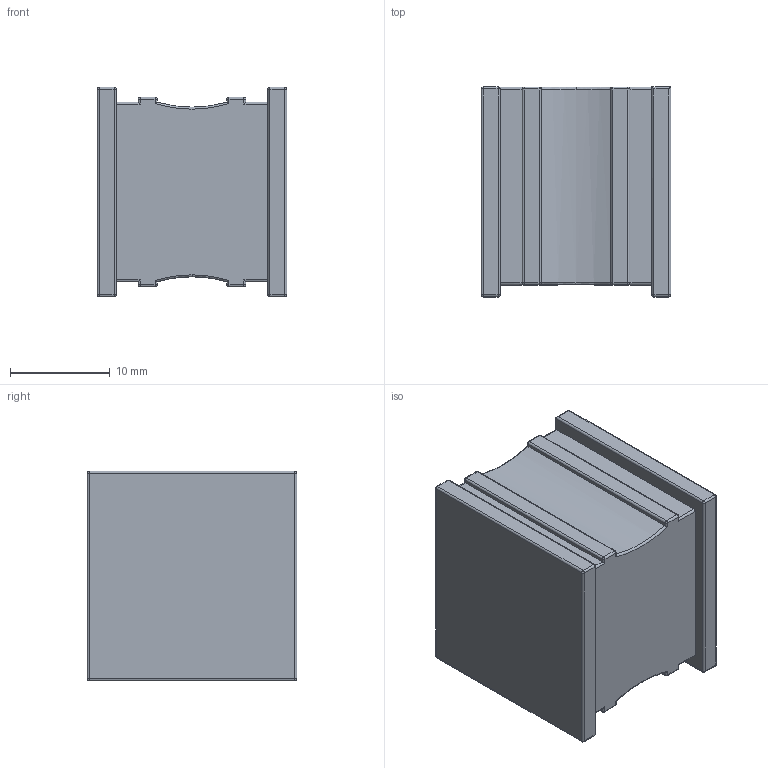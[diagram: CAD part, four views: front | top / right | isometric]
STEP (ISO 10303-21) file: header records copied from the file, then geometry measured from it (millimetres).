
FILE_DESCRIPTION (( 'STEP AP203' ), '1' );
FILE_NAME ('BTK.STEP', '2021-05-12T06:46:25', ( '' ), ( '' ), 'SwSTEP 2.0', 'SolidWorks 2016', '' );
FILE_SCHEMA (( 'CONFIG_CONTROL_DESIGN' ));
Length unit declared in the file: millimetre
Products named in the file (1): BTK
Bounding box: 19 x 21 x 21 mm (x, y, z)
Volume: 7061.3 mm3; surface area: 2565.7 mm2
Topology: 1 solids, 1 shells, 155 faces, 370 edges, 189 vertices
Faces by surface type: cylinder 69, bspline 53, plane 33
Entity records: 5122 total; most frequent: CARTESIAN_POINT 1956, ORIENTED_EDGE 678, DIRECTION 595, EDGE_CURVE 339, AXIS2_PLACEMENT_3D 214, VERTEX_POINT 189, VECTOR 167, LINE 167
